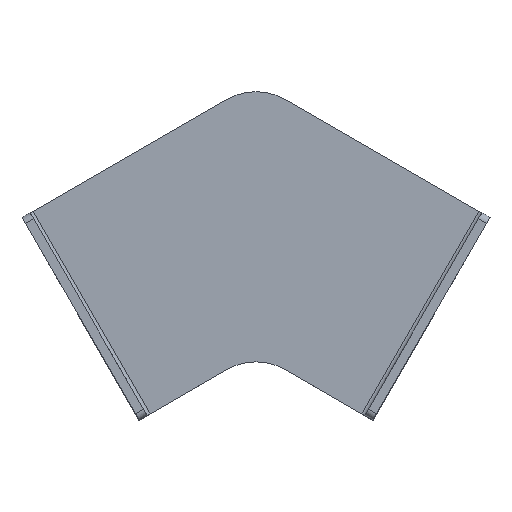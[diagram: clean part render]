
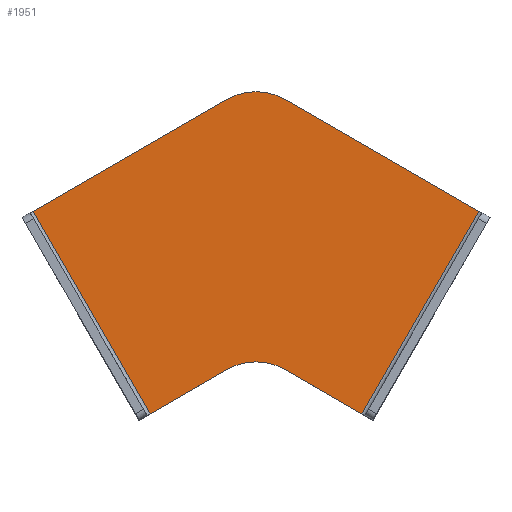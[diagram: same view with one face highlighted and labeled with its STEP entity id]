
A CAD part, top view. The second image highlights one B-rep face of the part: STEP entity #1951.
In plain terms, the highlighted planar face has unit normal (0, 0, 1).
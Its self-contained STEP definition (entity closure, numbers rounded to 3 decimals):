
#33 = EDGE_CURVE ( 'NONE', #1550, #903, #1389, .T. ) ;
#34 = CARTESIAN_POINT ( 'NONE',  ( 112.179, 70.016, 4. ) ) ;
#64 = VECTOR ( 'NONE', #1892, 1000. ) ;
#68 = EDGE_CURVE ( 'NONE', #392, #1968, #1308, .T. ) ;
#83 = DIRECTION ( 'NONE',  ( -0.866, -0.5, 0. ) ) ;
#114 = ORIENTED_EDGE ( 'NONE', *, *, #1622, .T. ) ;
#157 = VECTOR ( 'NONE', #83, 1000. ) ;
#181 = AXIS2_PLACEMENT_3D ( 'NONE', #776, #1832, #937 ) ;
#215 = CARTESIAN_POINT ( 'NONE',  ( -33.057, -13.837, 4. ) ) ;
#237 = DIRECTION ( 'NONE',  ( 0.866, 0.5, 0. ) ) ;
#243 = ORIENTED_EDGE ( 'NONE', *, *, #1928, .T. ) ;
#306 = CARTESIAN_POINT ( 'NONE',  ( 107.416, 72.766, 4. ) ) ;
#351 = CARTESIAN_POINT ( 'NONE',  ( -87.821, 70.016, 4. ) ) ;
#364 = PLANE ( 'NONE',  #1818 ) ;
#392 = VERTEX_POINT ( 'NONE', #671 ) ;
#414 = ORIENTED_EDGE ( 'NONE', *, *, #454, .T. ) ;
#446 = ORIENTED_EDGE ( 'NONE', *, *, #517, .T. ) ;
#454 = EDGE_CURVE ( 'NONE', #1841, #1204, #1974, .T. ) ;
#517 = EDGE_CURVE ( 'NONE', #903, #1841, #1477, .T. ) ;
#527 = DIRECTION ( 'NONE',  ( 0., 0., -1. ) ) ;
#561 = CARTESIAN_POINT ( 'NONE',  ( 12.179, 98.884, 4. ) ) ;
#618 = FACE_OUTER_BOUND ( 'NONE', #1030, .T. ) ;
#661 = VECTOR ( 'NONE', #761, 1000. ) ;
#671 = CARTESIAN_POINT ( 'NONE',  ( 24.679, 5.064, 4. ) ) ;
#696 = CARTESIAN_POINT ( 'NONE',  ( 57.416, -13.837, 4. ) ) ;
#719 = DIRECTION ( 'NONE',  ( -1., 0., 0. ) ) ;
#729 = LINE ( 'NONE', #34, #1509 ) ;
#749 = AXIS2_PLACEMENT_3D ( 'NONE', #561, #1624, #719 ) ;
#761 = DIRECTION ( 'NONE',  ( 0.5, -0.866, 0. ) ) ;
#776 = CARTESIAN_POINT ( 'NONE',  ( 12.179, -16.587, 4. ) ) ;
#793 = VERTEX_POINT ( 'NONE', #1133 ) ;
#899 = CIRCLE ( 'NONE', #181, 25. ) ;
#903 = VERTEX_POINT ( 'NONE', #1548 ) ;
#936 = CIRCLE ( 'NONE', #749, 25. ) ;
#937 = DIRECTION ( 'NONE',  ( -1., 0., 0. ) ) ;
#947 = CARTESIAN_POINT ( 'NONE',  ( -0.321, 120.534, 4. ) ) ;
#985 = VECTOR ( 'NONE', #1091, 1000. ) ;
#1030 = EDGE_LOOP ( 'NONE', ( #1567, #446, #414, #114, #1515, #1552, #243, #1804 ) ) ;
#1091 = DIRECTION ( 'NONE',  ( 0.5, 0.866, 0. ) ) ;
#1130 = DIRECTION ( 'NONE',  ( -0.866, 0.5, 0. ) ) ;
#1133 = CARTESIAN_POINT ( 'NONE',  ( 107.416, 72.766, 4. ) ) ;
#1173 = CARTESIAN_POINT ( 'NONE',  ( -37.821, -16.587, 4. ) ) ;
#1204 = VERTEX_POINT ( 'NONE', #1730 ) ;
#1238 = VERTEX_POINT ( 'NONE', #1887 ) ;
#1308 = LINE ( 'NONE', #1426, #64 ) ;
#1354 = EDGE_CURVE ( 'NONE', #1238, #1550, #936, .T. ) ;
#1370 = CARTESIAN_POINT ( 'NONE',  ( -33.057, -13.837, 4. ) ) ;
#1389 = LINE ( 'NONE', #351, #157 ) ;
#1426 = CARTESIAN_POINT ( 'NONE',  ( 62.179, -16.587, 4. ) ) ;
#1434 = CARTESIAN_POINT ( 'NONE',  ( 0., 0., 4. ) ) ;
#1477 = LINE ( 'NONE', #1370, #661 ) ;
#1509 = VECTOR ( 'NONE', #1130, 1000. ) ;
#1515 = ORIENTED_EDGE ( 'NONE', *, *, #68, .T. ) ;
#1533 = EDGE_CURVE ( 'NONE', #1968, #793, #1789, .T. ) ;
#1548 = CARTESIAN_POINT ( 'NONE',  ( -83.057, 72.766, 4. ) ) ;
#1550 = VERTEX_POINT ( 'NONE', #947 ) ;
#1552 = ORIENTED_EDGE ( 'NONE', *, *, #1533, .T. ) ;
#1567 = ORIENTED_EDGE ( 'NONE', *, *, #33, .T. ) ;
#1586 = DIRECTION ( 'NONE',  ( -1., 0., 0. ) ) ;
#1622 = EDGE_CURVE ( 'NONE', #1204, #392, #899, .T. ) ;
#1624 = DIRECTION ( 'NONE',  ( 0., 0., 1. ) ) ;
#1730 = CARTESIAN_POINT ( 'NONE',  ( -0.321, 5.064, 4. ) ) ;
#1789 = LINE ( 'NONE', #306, #985 ) ;
#1804 = ORIENTED_EDGE ( 'NONE', *, *, #1354, .T. ) ;
#1818 = AXIS2_PLACEMENT_3D ( 'NONE', #1434, #527, #1586 ) ;
#1832 = DIRECTION ( 'NONE',  ( 0., 0., -1. ) ) ;
#1841 = VERTEX_POINT ( 'NONE', #215 ) ;
#1887 = CARTESIAN_POINT ( 'NONE',  ( 24.679, 120.534, 4. ) ) ;
#1892 = DIRECTION ( 'NONE',  ( 0.866, -0.5, 0. ) ) ;
#1928 = EDGE_CURVE ( 'NONE', #793, #1238, #729, .T. ) ;
#1936 = VECTOR ( 'NONE', #237, 1000. ) ;
#1951 = ADVANCED_FACE ( 'NONE', ( #618 ), #364, .F. ) ;
#1968 = VERTEX_POINT ( 'NONE', #696 ) ;
#1974 = LINE ( 'NONE', #1173, #1936 ) ;
